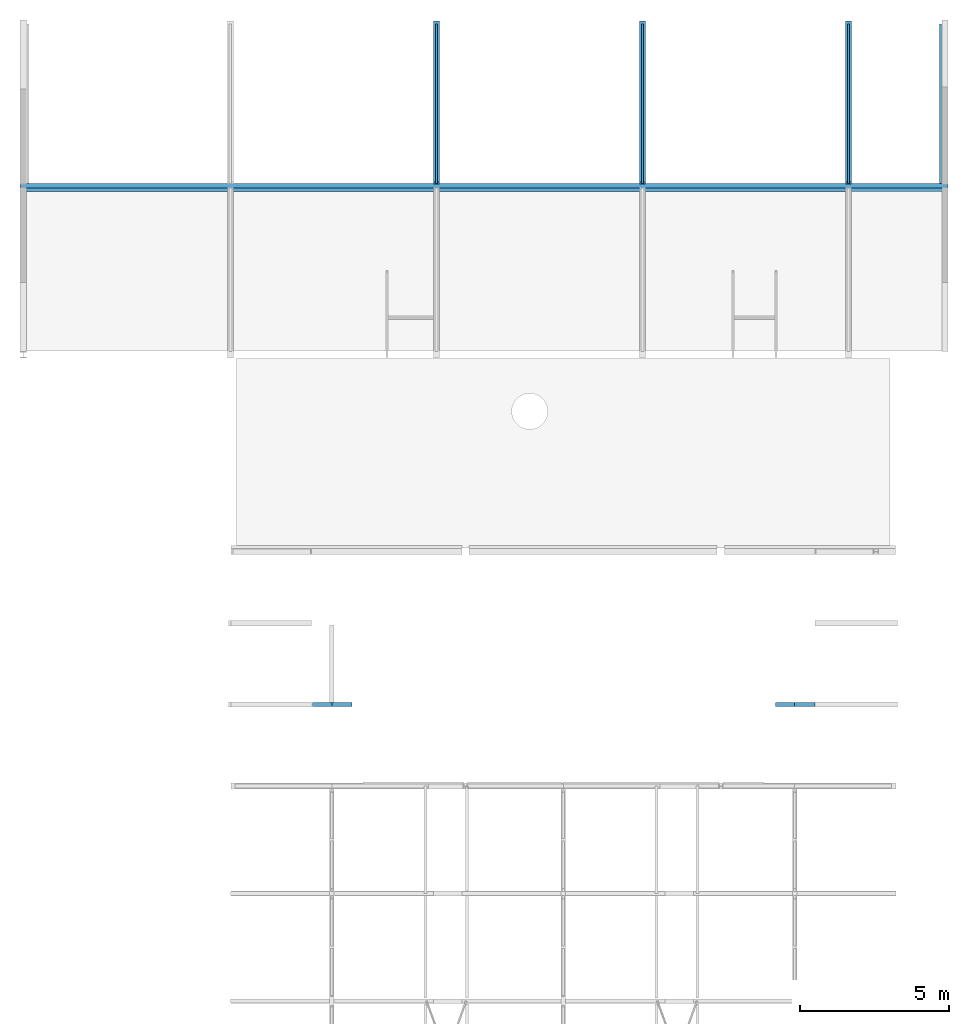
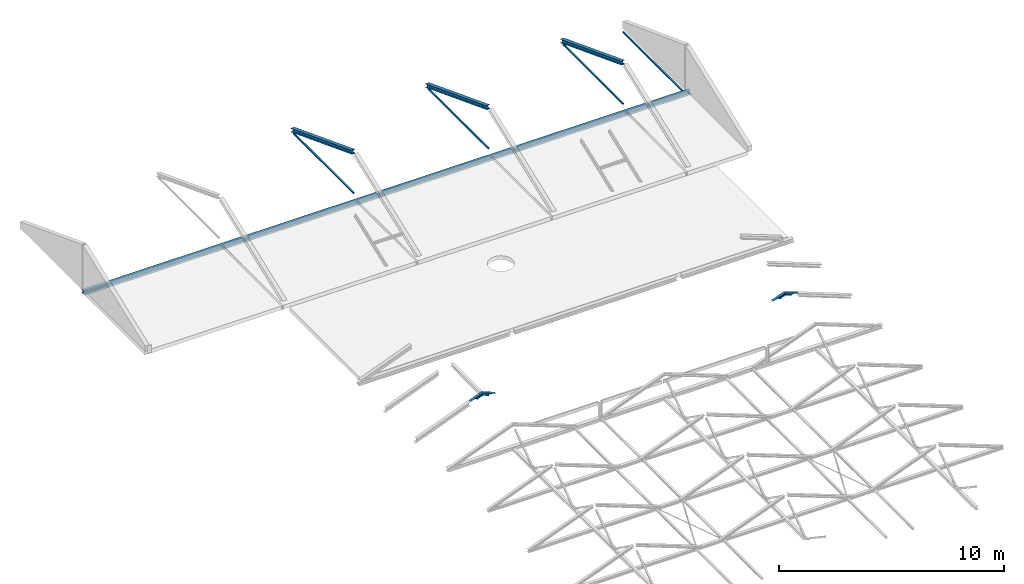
# One storey, part 5 of 10: 12 beams.
"""IFC2X3 building model written with IfcOpenShell, lengths in millimetres."""

from ifc_helpers import new_model, entity, si_unit, converted_unit, derived_unit, direction, frame, frame_2d, origin, origin_2d_with_axis, place, context, subcontext, project, spatial, polyline, rectangle, i_section, outline, extrude, boolean, clip, halfspace, source, transform, mapped, material, type_object, type_shapes, element, save


model = new_model("IFC2X3")

# Units and contexts
model_context = context("Model", 3, precision=0.01, world=origin(), true_north=direction((6.123031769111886e-17, 1.0)))
body_context = subcontext(model_context, "Body", "Model", "MODEL_VIEW")
ifc_project = project(units=[si_unit("LENGTHUNIT", "METRE", prefix="MILLI"), si_unit("AREAUNIT", "SQUARE_METRE", prefix="MILLI"), si_unit("VOLUMEUNIT", "CUBIC_METRE"), converted_unit("PLANEANGLEUNIT", "DEGREE", entity("IfcPlaneAngleMeasure", 0.017453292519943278), si_unit("PLANEANGLEUNIT", "RADIAN"), dimensions=[0, 0, 0, 0, 0, 0, 0]), si_unit("MASSUNIT", "GRAM", prefix="KILO"), derived_unit("MASSDENSITYUNIT", [(si_unit("MASSUNIT", "GRAM", prefix="KILO"), 1), (si_unit("LENGTHUNIT", "METRE"), -3)]), derived_unit("IONCONCENTRATIONUNIT", [(si_unit("MASSUNIT", "GRAM", prefix="KILO"), 1), (si_unit("LENGTHUNIT", "METRE"), -3)]), derived_unit("MOMENTOFINERTIAUNIT", [(si_unit("LENGTHUNIT", "METRE"), 4)]), si_unit("TIMEUNIT", "SECOND"), si_unit("FREQUENCYUNIT", "HERTZ"), si_unit("THERMODYNAMICTEMPERATUREUNIT", "DEGREE_CELSIUS"), derived_unit("THERMALTRANSMITTANCEUNIT", [(si_unit("MASSUNIT", "GRAM", prefix="KILO"), 1), (si_unit("THERMODYNAMICTEMPERATUREUNIT", "KELVIN"), -1), (si_unit("TIMEUNIT", "SECOND"), -3)]), derived_unit("THERMALCONDUCTANCEUNIT", [(si_unit("MASSUNIT", "GRAM", prefix="KILO"), 1), (si_unit("THERMODYNAMICTEMPERATUREUNIT", "KELVIN"), -1), (si_unit("TIMEUNIT", "SECOND"), -3), (si_unit("LENGTHUNIT", "METRE"), 1)]), derived_unit("VOLUMETRICFLOWRATEUNIT", [(si_unit("LENGTHUNIT", "METRE", prefix="DECI"), 3), (si_unit("TIMEUNIT", "SECOND"), -1)]), derived_unit("MASSFLOWRATEUNIT", [(si_unit("MASSUNIT", "GRAM", prefix="KILO"), 1), (si_unit("TIMEUNIT", "SECOND"), -1)]), derived_unit("ROTATIONALFREQUENCYUNIT", [(si_unit("TIMEUNIT", "SECOND"), -1)]), si_unit("ELECTRICCURRENTUNIT", "AMPERE"), si_unit("ELECTRICVOLTAGEUNIT", "VOLT"), si_unit("POWERUNIT", "WATT"), si_unit("FORCEUNIT", "NEWTON", prefix="KILO"), si_unit("ILLUMINANCEUNIT", "LUX"), si_unit("LUMINOUSFLUXUNIT", "LUMEN"), si_unit("LUMINOUSINTENSITYUNIT", "CANDELA"), si_unit("ENERGYUNIT", "JOULE"), derived_unit("USERDEFINED", [(si_unit("MASSUNIT", "GRAM", prefix="KILO"), -1), (si_unit("LENGTHUNIT", "METRE"), -2), (si_unit("TIMEUNIT", "SECOND"), 3), (si_unit("LUMINOUSFLUXUNIT", "LUMEN"), 1)]), derived_unit("USERDEFINED", [(si_unit("MASSUNIT", "GRAM", prefix="KILO"), 1), (si_unit("TIMEUNIT", "SECOND"), -3), (si_unit("LENGTHUNIT", "METRE"), 3), (si_unit("ELECTRICCURRENTUNIT", "AMPERE"), -2)]), derived_unit("SOUNDPOWERUNIT", [(si_unit("MASSUNIT", "GRAM", prefix="KILO"), 1), (si_unit("TIMEUNIT", "SECOND"), -3), (si_unit("LENGTHUNIT", "METRE"), 2)]), derived_unit("SOUNDPRESSUREUNIT", [(si_unit("MASSUNIT", "GRAM", prefix="KILO"), 1), (si_unit("LENGTHUNIT", "METRE"), -1), (si_unit("TIMEUNIT", "SECOND"), -2)]), derived_unit("LINEARVELOCITYUNIT", [(si_unit("LENGTHUNIT", "METRE"), 1), (si_unit("TIMEUNIT", "SECOND"), -1)]), si_unit("PRESSUREUNIT", "PASCAL"), derived_unit("USERDEFINED", [(si_unit("MASSUNIT", "GRAM", prefix="KILO"), 1), (si_unit("LENGTHUNIT", "METRE"), -2), (si_unit("TIMEUNIT", "SECOND"), -2)]), derived_unit("LINEARFORCEUNIT", [(si_unit("MASSUNIT", "GRAM", prefix="KILO"), 1), (si_unit("TIMEUNIT", "SECOND"), -2)]), derived_unit("PLANARFORCEUNIT", [(si_unit("MASSUNIT", "GRAM", prefix="KILO"), 1), (si_unit("LENGTHUNIT", "METRE"), -1), (si_unit("TIMEUNIT", "SECOND"), -2)]), derived_unit("SPECIFICHEATCAPACITYUNIT", [(si_unit("THERMODYNAMICTEMPERATUREUNIT", "KELVIN"), -1), (si_unit("LENGTHUNIT", "METRE"), 2), (si_unit("TIMEUNIT", "SECOND"), -2)]), derived_unit("HEATFLUXDENSITYUNIT", [(si_unit("MASSUNIT", "GRAM", prefix="KILO"), 1), (si_unit("TIMEUNIT", "SECOND"), -3)]), derived_unit("HEATINGVALUEUNIT", [(si_unit("LENGTHUNIT", "METRE"), 2), (si_unit("TIMEUNIT", "SECOND"), -2)]), derived_unit("VAPORPERMEABILITYUNIT", [(si_unit("LENGTHUNIT", "METRE"), -1), (si_unit("TIMEUNIT", "SECOND"), 1)]), derived_unit("DYNAMICVISCOSITYUNIT", [(si_unit("MASSUNIT", "GRAM", prefix="KILO"), 1), (si_unit("TIMEUNIT", "SECOND"), -1), (si_unit("LENGTHUNIT", "METRE"), -1)]), derived_unit("THERMALEXPANSIONCOEFFICIENTUNIT", [(si_unit("THERMODYNAMICTEMPERATUREUNIT", "KELVIN"), -1)]), derived_unit("MODULUSOFELASTICITYUNIT", [(si_unit("MASSUNIT", "GRAM", prefix="KILO"), 1), (si_unit("LENGTHUNIT", "METRE"), -1), (si_unit("TIMEUNIT", "SECOND"), -2)]), derived_unit("ISOTHERMALMOISTURECAPACITYUNIT", [(si_unit("MASSUNIT", "GRAM", prefix="KILO"), -1), (si_unit("LENGTHUNIT", "METRE"), 3)]), derived_unit("MOISTUREDIFFUSIVITYUNIT", [(si_unit("TIMEUNIT", "SECOND"), -1), (si_unit("LENGTHUNIT", "METRE"), 2)]), derived_unit("MASSPERLENGTHUNIT", [(si_unit("MASSUNIT", "GRAM", prefix="KILO"), 1), (si_unit("LENGTHUNIT", "METRE"), -1)]), derived_unit("THERMALRESISTANCEUNIT", [(si_unit("MASSUNIT", "GRAM", prefix="KILO"), -1), (si_unit("TIMEUNIT", "SECOND"), 3), (si_unit("THERMODYNAMICTEMPERATUREUNIT", "KELVIN"), 1)]), derived_unit("ACCELERATIONUNIT", [(si_unit("LENGTHUNIT", "METRE"), 1), (si_unit("TIMEUNIT", "SECOND"), -2)]), derived_unit("ANGULARVELOCITYUNIT", [(si_unit("TIMEUNIT", "SECOND"), -1), (si_unit("PLANEANGLEUNIT", "RADIAN"), 1)]), derived_unit("LINEARSTIFFNESSUNIT", [(si_unit("MASSUNIT", "GRAM", prefix="KILO"), 1), (si_unit("TIMEUNIT", "SECOND"), -2)]), derived_unit("WARPINGCONSTANTUNIT", [(si_unit("LENGTHUNIT", "METRE"), 6)]), derived_unit("LINEARMOMENTUNIT", [(si_unit("MASSUNIT", "GRAM", prefix="KILO"), 1), (si_unit("LENGTHUNIT", "METRE"), 1), (si_unit("TIMEUNIT", "SECOND"), -2)]), derived_unit("TORQUEUNIT", [(si_unit("MASSUNIT", "GRAM", prefix="KILO"), 1), (si_unit("LENGTHUNIT", "METRE"), 2), (si_unit("TIMEUNIT", "SECOND"), -2)])], contexts=[model_context])

# Site, building, storey
site_placement = place(None, origin())
site = spatial("IfcSite", under=ifc_project, at=site_placement, Name="Default", CompositionType="ELEMENT")
building_placement = place(site_placement, origin())
building = spatial("IfcBuilding", under=site, at=building_placement, CompositionType="ELEMENT")
storey_placement = place(building_placement, frame((0.0, 0.0, 10840.0)))
storey = spatial("IfcBuildingStorey", under=building, at=storey_placement, Name="V3 dakvloer", CompositionType="ELEMENT", Elevation=10839.99999999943)

# Beams
ifc_material_1 = material(Name="Metal - Steel - S235 JRG2 (standaard)")
beam_type_1 = type_object("IfcBeamType", Name="btl_staal - HE(a-b-m):HEA200.", PredefinedType="NOTDEFINED")
beam_1_placement = place(storey_placement, frame((13725.000781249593, 37628.34560192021, 2625.2612079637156), z_axis=(0.0, 0.35784805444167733, 0.9337798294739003), x_axis=(0.0, 0.9337798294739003, -0.35784805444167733)))
element("IfcBeam", 1, at=beam_1_placement, inside=storey, type_object=beam_type_1, material=ifc_material_1, Name="btl_staal - HE(a-b-m):HEA200.", ObjectType="btl_staal - HE(a-b-m):HEA200.", context=body_context, shape_type="SweptSolid", body=[
    clip(extrude(i_section(OverallWidth=200.0, OverallDepth=190.00000000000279, WebThickness=6.5000000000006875, FlangeThickness=10.000000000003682, at=frame_2d((1.0160761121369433e-12, -3.247180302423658e-12), x_axis=(0.0, 1.0))), frame((102.69041405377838, 0.0, -95.0), z_axis=(1.0, 0.0, 0.0), x_axis=(0.0, 0.0, -1.0)), (0.0, 0.0, 1.0), 5847.554556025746), halfspace(frame((5877.432163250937, -6188.677127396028, 0.0), z_axis=(0.9337798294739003, 0.0, 0.35784805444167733), x_axis=(0.0, 1.0, 0.0)), False)),
])
beam_2_placement = place(storey_placement, frame((20624.984654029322, 37628.345601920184, 2625.2612079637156), z_axis=(0.0, 0.35784805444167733, 0.9337798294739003), x_axis=(0.0, 0.9337798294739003, -0.35784805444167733)))
element("IfcBeam", 2, at=beam_2_placement, inside=storey, type_object=beam_type_1, material=ifc_material_1, Name="btl_staal - HE(a-b-m):HEA200.", ObjectType="btl_staal - HE(a-b-m):HEA200.", context=body_context, shape_type="SweptSolid", body=[
    clip(extrude(i_section(OverallWidth=200.0000000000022, OverallDepth=190.00000000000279, WebThickness=6.499999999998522, FlangeThickness=10.000000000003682, at=frame_2d((-1.0160761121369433e-12, -2.1671553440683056e-12), x_axis=(0.0, 1.0))), frame((102.69041405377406, 0.0, -95.0), z_axis=(1.0, 0.0, 0.0), x_axis=(0.0, 0.0, -1.0)), (0.0, 0.0, 1.0), 5847.554556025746), halfspace(frame((5877.432163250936, -6188.677127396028, 0.0), z_axis=(0.9337798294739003, 0.0, 0.35784805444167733), x_axis=(0.0, 1.0, 0.0)), False)),
])
beam_3_placement = place(storey_placement, frame((27524.979520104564, 37628.34560192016, 2625.2612079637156), z_axis=(0.0, 0.35784805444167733, 0.9337798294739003), x_axis=(0.0, 0.9337798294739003, -0.35784805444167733)))
element("IfcBeam", 3, at=beam_3_placement, inside=storey, type_object=beam_type_1, material=ifc_material_1, Name="btl_staal - HE(a-b-m):HEA200.", ObjectType="btl_staal - HE(a-b-m):HEA200.", context=body_context, shape_type="SweptSolid", body=[
    clip(extrude(i_section(OverallWidth=200.0000000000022, OverallDepth=190.00000000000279, WebThickness=6.499999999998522, FlangeThickness=10.000000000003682, at=frame_2d((-1.0160761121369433e-12, -2.1671553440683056e-12), x_axis=(0.0, 1.0))), frame((102.69041405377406, 0.0, -95.0), z_axis=(1.0, 0.0, 0.0), x_axis=(0.0, 0.0, -1.0)), (0.0, 0.0, 1.0), 5847.554556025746), halfspace(frame((5877.432163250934, -6188.677127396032, 0.0), z_axis=(0.9337798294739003, 0.0, 0.35784805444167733), x_axis=(0.0, 1.0, 0.0)), False)),
])
ifc_material_2 = material(Name="Metal - Steel - S355 JR (standaard-geintegreerde liggers)")
beam_type_2 = type_object("IfcBeamType", Name="btl_staal - SFB:SFB HEM140+260x15", PredefinedType="BEAM", material=ifc_material_2)
shared_shape = source(origin(), body_context, "Body", "SweptSolid", [
    extrude(outline(polyline([(58.0, -73.0), (80.0, -73.0), (80.0, 73.0), (58.0, 73.0), (58.0, 6.499999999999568), (-58.0, 6.499999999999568), (-58.0, 73.0), (-80.0, 73.0), (-80.0, -73.0), (-58.0, -73.0), (-58.0, -6.50000000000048), (58.0, -6.50000000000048), (58.0, -73.0)])), frame((-15539.488597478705, 0.0, 35.0), z_axis=(1.0, 0.0, 0.0), x_axis=(0.0, 0.0, -1.0)), (0.0, 0.0, 1.0), 31078.977194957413),
    extrude(rectangle(XDim=15.000000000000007, YDim=260.0, at=origin_2d_with_axis()), frame((-15539.488597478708, -57.0, -52.500000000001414), z_axis=(1.0, 0.0, 0.0), x_axis=(0.0, 0.0, -1.0)), (0.0, 0.0, 1.0), 31078.977194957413),
])
type_shapes(beam_type_2, [shared_shape])
beam_4_placement = place(storey_placement, frame((15324.488597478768, 37594.38570506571, -165.0)))
element("IfcBeam", 4, at=beam_4_placement, inside=storey, type_object=beam_type_2, material=ifc_material_2, Name="btl_staal - SFB:SFB HEM140+260x15", ObjectType="btl_staal - SFB:SFB HEM140+260x15", context=body_context, shape_type="MappedRepresentation", body=[
    mapped(shared_shape, transform((0.0, 0.0, 0.0), scale=1.0)),
])
beam_type_3 = type_object("IfcBeamType", Name="btl_staal - HE(a-b-m):HEA140", PredefinedType="NOTDEFINED")
beam_5_placement = place(storey_placement, frame((9574.759451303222, 20227.929318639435, 1050.628777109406), z_axis=(-0.35818409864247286, 0.0, 0.9336509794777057), x_axis=(0.9336509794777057, 0.0, 0.35818409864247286)))
element("IfcBeam", 5, at=beam_5_placement, inside=storey, type_object=beam_type_3, material=ifc_material_1, Name="btl_staal - HE(a-b-m):HEA140", ObjectType="btl_staal - HE(a-b-m):HEA140", context=body_context, shape_type="SweptSolid", body=[
    clip(clip(extrude(i_section(OverallWidth=139.99999999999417, OverallDepth=132.99999999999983, WebThickness=5.4999999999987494, FlangeThickness=8.500000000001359, at=frame_2d((-4.632738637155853e-12, 2.1600499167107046e-12), x_axis=(0.0, 1.0))), frame((0.0, 0.0, -66.50000000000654), z_axis=(1.0, 0.0, 0.0), x_axis=(0.0, 0.0, -1.0)), (0.0, 0.0, 1.0), 697.3641839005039), halfspace(frame((0.0, 697.3641839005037, 0.0), z_axis=(-0.3581840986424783, 0.0, -0.9336509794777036), x_axis=(0.0, -1.0, 0.0)), False)), halfspace(frame((697.3641839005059, 0.0, 0.0), z_axis=(0.9336508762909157, 0.0, -0.3581843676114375), x_axis=(0.0, -1.0, 0.0)), False)),
])
beam_6_placement = place(storey_placement, frame((10225.854204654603, 20227.92931863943, 1300.4135387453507), z_axis=(0.3581846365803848, 0.0, 0.9336507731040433), x_axis=(0.9336507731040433, 0.0, -0.3581846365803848)))
element("IfcBeam", 6, at=beam_6_placement, inside=storey, type_object=beam_type_3, material=ifc_material_1, Name="btl_staal - HE(a-b-m):HEA140", ObjectType="btl_staal - HE(a-b-m):HEA140", context=body_context, shape_type="SweptSolid", body=[
    clip(clip(extrude(i_section(OverallWidth=139.9999999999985, OverallDepth=132.99999999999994, WebThickness=5.499999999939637, FlangeThickness=8.500000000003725, at=frame_2d((1.0089706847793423e-12, -2.1671553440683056e-12), x_axis=(0.0, 1.0))), frame((0.0, 0.0, -66.5000000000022), z_axis=(1.0, 0.0, 0.0), x_axis=(0.0, 0.0, -1.0)), (0.0, 0.0, 1.0), 727.0371538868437), halfspace(frame((727.0371538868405, -790.0, 0.0), z_axis=(0.3581846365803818, 0.0, -0.9336507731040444), x_axis=(0.0, 1.0, 0.0)), False)), halfspace(frame((0.0, 0.0, 0.0), z_axis=(-0.933650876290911, 0.0, -0.35818436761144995), x_axis=(0.0, 1.0, 0.0)), False)),
])
beam_7_placement = place(storey_placement, frame((25072.985138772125, 20227.92931863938, 1050.628777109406), z_axis=(-0.35818409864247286, 0.0, 0.9336509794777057), x_axis=(0.9336509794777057, 0.0, 0.35818409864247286)))
element("IfcBeam", 7, at=beam_7_placement, inside=storey, type_object=beam_type_3, material=ifc_material_1, Name="btl_staal - HE(a-b-m):HEA140", ObjectType="btl_staal - HE(a-b-m):HEA140", context=body_context, shape_type="SweptSolid", body=[
    clip(clip(extrude(i_section(OverallWidth=139.99999999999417, OverallDepth=132.99999999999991, WebThickness=5.4999999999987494, FlangeThickness=8.500000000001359, at=frame_2d((-3.0340174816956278e-12, -2.1600499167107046e-12), x_axis=(0.0, 1.0))), frame((0.0, 0.0, -66.50000000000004), z_axis=(1.0, 0.0, 0.0), x_axis=(0.0, 0.0, -1.0)), (0.0, 0.0, 1.0), 697.3641839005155), halfspace(frame((0.0, 697.3641839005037, 0.0), z_axis=(-0.3581840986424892, 0.0, -0.9336509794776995), x_axis=(0.0, -1.0, 0.0)), False)), halfspace(frame((697.3641839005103, 0.0, 0.0), z_axis=(0.9336508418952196, 0.0, -0.35818445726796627), x_axis=(0.0, -1.0, 0.0)), False)),
])
beam_8_placement = place(storey_placement, frame((25724.079892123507, 20227.929318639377, 1300.4135387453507), z_axis=(0.3581848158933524, 0.0, 0.9336507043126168), x_axis=(0.9336507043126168, 0.0, -0.3581848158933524)))
element("IfcBeam", 8, at=beam_8_placement, inside=storey, type_object=beam_type_3, material=ifc_material_1, Name="btl_staal - HE(a-b-m):HEA140", ObjectType="btl_staal - HE(a-b-m):HEA140", context=body_context, shape_type="SweptSolid", body=[
    clip(clip(extrude(outline(polyline([(-70.0, -58.0), (-70.0, -66.50000000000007), (70.0, -66.50000000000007), (70.0, -58.0), (2.7499999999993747, -58.0), (2.7499999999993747, 58.0), (70.0, 58.0), (70.0, 66.50000000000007), (-70.0, 66.50000000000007), (-70.0, 58.0), (-2.7499999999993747, 58.0), (-2.7499999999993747, -58.0), (-70.0, -58.0)])), frame((0.0, 0.0, -66.50000000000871), z_axis=(-1.0, 0.0, 0.0), x_axis=(0.0, 1.0, 0.0)), (0.0, 0.0, -1.0), 721.957462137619), halfspace(frame((721.9574621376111, -725.0, -1.9486281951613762), z_axis=(0.3581848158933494, 0.0, -0.9336507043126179), x_axis=(0.0, 1.0, 0.0)), False)), halfspace(frame((0.0, 0.0, 0.0), z_axis=(-0.9336508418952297, 0.0, -0.3581844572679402), x_axis=(0.0, 1.0, 0.0)), False)),
])
ifc_material_3 = material(Name="Metal - Steel - S275 J0H (standaard-kokers/buizen)")
beam_type_4 = type_object("IfcBeamType", Name="btl_staal - Koker:K70x70x6.0", PredefinedType="NOTDEFINED")
beam_9_placement = place(storey_placement, frame((13725.000781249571, 43012.38570506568, 315.9000000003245), z_axis=(0.0, 0.0, 1.0), x_axis=(0.0, -1.0, 0.0)))
element("IfcBeam", 9, at=beam_9_placement, inside=storey, type_object=beam_type_4, material=ifc_material_3, Name="btl_staal - Koker:K70x70x6.0", ObjectType="btl_staal - Koker:K70x70x6.0", context=body_context, shape_type="SweptSolid", body=[
    boolean("DIFFERENCE", extrude(rectangle(XDim=70.00000000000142, YDim=69.99999999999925, at=frame_2d((1.0800249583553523e-12, 2.163602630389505e-12), x_axis=(1.0, 0.0))), frame((0.0, 0.0, -35.0), z_axis=(1.0, 0.0, 0.0), x_axis=(0.0, 0.0, -1.0)), (0.0, 0.0, 1.0), 5344.999999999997), extrude(rectangle(XDim=57.99999999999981, YDim=57.99999999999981, at=frame_2d((0.0, 0.0), x_axis=(0.0, 1.0))), frame((0.0, 0.0, -35.0), z_axis=(1.0, 0.0, 0.0), x_axis=(0.0, -1.0, 0.0)), (0.0, 0.0, 1.0), 5344.999999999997)),
])
for number, where, z_axis, x_axis, name in (
    (10, (20624.9846540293, 43012.38570506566, 315.9000000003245), (0.0, 0.0, 1.0), (0.0, -1.0, 0.0), "btl_staal - Koker:K70x70x6.0"),
    (11, (27524.97952010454, 43012.38570506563, 315.9000000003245), (0.0, 0.0, 1.0), (0.0, -1.0, 0.0), "btl_staal - Koker:K70x70x6.0"),
    (12, (30598.72719495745, 43012.38570506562, -100.0), (0.0, 0.0, 1.0), (0.0, -1.0, 0.0), "btl_staal - Koker:K70x70x6.0"),
):
    element("IfcBeam", number, at=place(storey_placement, frame(where, z_axis=z_axis, x_axis=x_axis)), inside=storey, type_object=beam_type_4, material=ifc_material_3, Name=name, ObjectType="btl_staal - Koker:K70x70x6.0", context=body_context, shape_type="SweptSolid", body=[
        boolean("DIFFERENCE", extrude(rectangle(XDim=70.00000000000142, YDim=70.0000000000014, at=frame_2d((1.0800249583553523e-12, 0.0), x_axis=(1.0, 0.0))), frame((0.0, 0.0, -35.0), z_axis=(1.0, 0.0, 0.0), x_axis=(0.0, 0.0, -1.0)), (0.0, 0.0, 1.0), 5344.999999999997), extrude(rectangle(XDim=57.99999999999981, YDim=57.999999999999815, at=frame_2d((-2.1653789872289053e-12, 0.0), x_axis=(0.0, 1.0))), frame((0.0, 0.0, -35.0), z_axis=(1.0, 0.0, 0.0), x_axis=(0.0, -1.0, 0.0)), (0.0, 0.0, 1.0), 5344.999999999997)),
    ])

save(model, "model.ifc")
